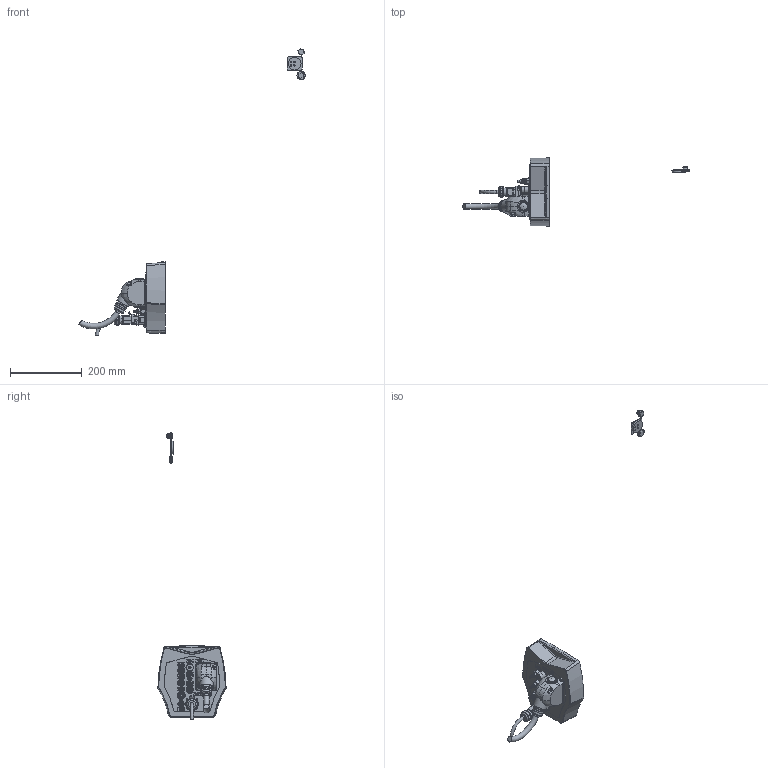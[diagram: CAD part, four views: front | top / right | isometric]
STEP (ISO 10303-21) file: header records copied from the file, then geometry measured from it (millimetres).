
FILE_DESCRIPTION(/* description */ (''),/* implementation_level */ '2;1');
FILE_NAME(/* name */ 'KR_6_R700-2_CTR_AIR_V01.stp',/* time_stamp */ '2018-02-12T11:15:43+01:00',/* author */ (''),/* organization */ (''),/* preprocessor_version */ 'ST-DEVELOPER v15',/* originating_system */ 'SIEMENS PLM Software NX 9.0',/* authorisation */ '');
FILE_SCHEMA (('AUTOMOTIVE_DESIGN { 1 0 10303 214 3 1 1 1 }'));
Products named in the file (1): grae193045AE0yvr
Bounding box: 631.34 x 189.98 x 801 mm (x, y, z)
Volume: 2062205 mm3; surface area: 189242.2 mm2
Topology: 28 solids, 30 shells, 2133 faces, 5500 edges, 3644 vertices
Faces by surface type: plane 1178, extrusion 551, cylinder 271, bspline 80, cone 39, torus 8, sphere 6
Full cylindrical faces by diameter (mm): 2.5 x1, 3.2 x2, 3.3 x1, 3.8 x3, 4 x6, 4.2 x8, 4.8 x3, 5 x10, 5.5 x2, 6 x8, 6.9 x4, 7 x3, 8 x6, 8.06 x1, 8.42 x1, 8.7 x2, 8.8 x3, 9 x3, 9.7 x1, 11 x2, 11.8 x1, 12 x4, 13 x3, 13.3 x1, 14 x2, 14.4 x1, 15 x1, 15.2 x2, 16 x1, 17 x2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
Entity records: 74739 total; most frequent: CARTESIAN_POINT 27221, ORIENTED_EDGE 10656, DIRECTION 7341, EDGE_CURVE 5328, VERTEX_POINT 3585, VECTOR 3091, B_SPLINE_CURVE_WITH_KNOTS 2665, LINE 2540
